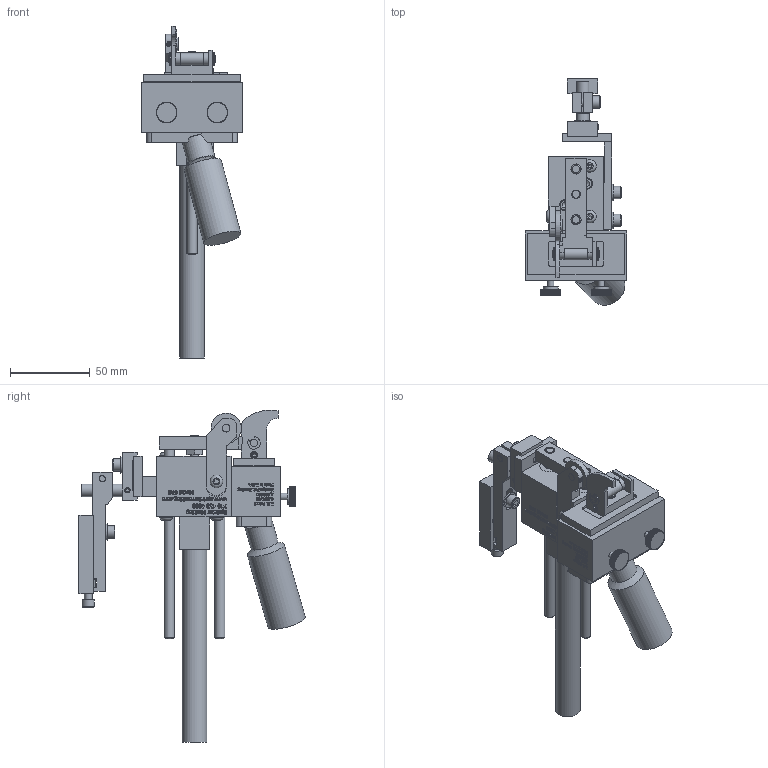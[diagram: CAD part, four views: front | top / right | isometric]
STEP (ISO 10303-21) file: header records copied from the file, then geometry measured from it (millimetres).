
FILE_DESCRIPTION((''),'2;1');
FILE_NAME('C:\Documents and Settings\Ron\My Documents\Inventor\Sprinter Drawing\Machines in Inventor\Model 616\Type\Ext Str\E1\Brkt\Ret\Model 616 ES1 ret w brkt mod 2012.stp','2012-03-16T15:05:32',('Ron'),(''),'Autodesk Inventor 2011','Autodesk Inventor 2011','');
FILE_SCHEMA(('AUTOMOTIVE_DESIGN { 1 0 10303 214 1 1 1 1 }'));
Length unit declared in the file: inch
Products named in the file (44): Model 616 ES1 ret w brkt mod 2012; 616 Frame Body; 66 Linear Bearing; Hexagon Socket Button Head Cap Screw - Inch 8 - 32 x 1/4; Hexagon Socket Head Cap Screw - Inch No. 8 - 32 UNC - 1 1/4; 616  Wheel Bractet Assy (prototype); 44 Wheel Retainer; 44 Cam Wheel; 88 Wheel Bracket Arm (prototype); Hexagon Socket Set Screw - Flat Point - Inch 4-48 UNF x 0.19; 8-32x0.25 Hexagon Socket Button Head Cap Screw ANSI/ASME B18.3; Model 616 STD Reservoir assy; 616 RESERVOIR; 66 INK BOTTLE; 616 Ink Pad; 10 Ink Resevior Lock Screw; Model 616 Mounting Bracket assy; rpb4; rpb3; rpb-1; rpb2; No. 10-24x0.88 Hexagon socket head cap screw ANSI/ASME B18.3; Type B - Plain Washer (Inch) No. 10 - narrow - Type B; 66 Machine Mounting Pivot Bracket; Pin - Hardened Ground Machine Dowel (Inch) 1/8 x 3/4; Pin - Hardened Ground Machine Dowel (Inch) 1/8 x 3/8; Model 616 Rod Carrier ES 1 Retracted Assy; 66 Rod Carrier; 44 & up Removable Marking Head Securing Post; Type A - Hexagon Socket Set Screw - Cup Point - Inch 8-32 UNC x 0.32; 66 PIVOT SHAFT; 66 PIVOT SHAFT LOCKING RING; 23 66 invert block; 616 Marking Head Plate; AS 1112 (4)  - Metric M6; 19 Rod Carrier Set Screws; 66 Spring; Hexagon Socket Flat Countersunk Head Cap Screw - Inch 6-32 UNC x 0.25; 616 baselock (sized); Model 66, E1 .25 x 5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
Assembly tree (58 placements, depth 3):
  Model 616 ES1 ret w brkt mod 2012
    616 Frame Body
    66 Linear Bearing
    Hexagon Socket Button Head Cap Screw - Inch 8 - 32 x 1/4  x4
    Hexagon Socket Head Cap Screw - Inch No. 8 - 32 UNC - 1 1/4  x2
    616  Wheel Bractet Assy (prototype)
      44 Wheel Retainer
      44 Cam Wheel
      88 Wheel Bracket Arm (prototype)
      Hexagon Socket Set Screw - Flat Point - Inch 4-48 UNF x 0.19
    8-32x0.25 Hexagon Socket Button Head Cap Screw ANSI/ASME B18.3
    Model 616 STD Reservoir assy
      616 RESERVOIR
      66 INK BOTTLE
      616 Ink Pad
    10 Ink Resevior Lock Screw  x2
    Model 616 Mounting Bracket assy
      rpb4
      rpb3
      rpb-1
      rpb2
      No. 10-24x0.88 Hexagon socket head cap screw ANSI/ASME B18.3  x5
      Type B - Plain Washer (Inch) No. 10 - narrow - Type B  x4
      66 Machine Mounting Pivot Bracket
      Pin - Hardened Ground Machine Dowel (Inch) 1/8 x 3/4
      Pin - Hardened Ground Machine Dowel (Inch) 1/8 x 3/8
    Model 616 Rod Carrier ES 1 Retracted Assy
      66 Rod Carrier
      44 & up Removable Marking Head Securing Post
      Type A - Hexagon Socket Set Screw - Cup Point - Inch 8-32 UNC x 0.32
      66 PIVOT SHAFT
      66 PIVOT SHAFT LOCKING RING  x2
      23 66 invert block
      616 Marking Head Plate
      AS 1112 (4)  - Metric M6
      19 Rod Carrier Set Screws  x2
      66 Spring
      Hexagon Socket Flat Countersunk Head Cap Screw - Inch 6-32 UNC x 0.25
      616 baselock (sized)
      Model 66, E1 .25 x 5  x2
      Hexagon Socket Set Screw - Flat Point - Inch 8-32 UNC x 0.32
      616 baselock STAMP
    E1 Retracted
    10-32 PORTS DECAL
Bounding box: 63.5 x 141.96 x 208.36 mm (x, y, z)
Volume: 237704.4 mm3; surface area: 112826.8 mm2
Topology: 428 solids, 428 shells, 6557 faces, 16096 edges, 9983 vertices
Faces by surface type: plane 4543, bspline 1343, cylinder 571, cone 77, torus 23
Full cylindrical faces by diameter (mm): 1.575 x1, 2.261 x1, 2.54 x2, 2.642 x1, 2.845 x1, 3.175 x4, 3.2 x1, 3.302 x14, 3.505 x1, 3.556 x1, 3.962 x12, 4.064 x2, 4.166 x11, 4.496 x1, 4.521 x1, 4.699 x3, 4.75 x4, 4.775 x2, 4.826 x8, 4.864 x2, 4.917 x1, 5.08 x1, 5.156 x7, 5.359 x1, 5.556 x1, 6.325 x2, 6.35 x7, 6.426 x1, 6.604 x1, 6.68 x1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
Entity records: 157228 total; most frequent: CARTESIAN_POINT 46614, ORIENTED_EDGE 24640, DIRECTION 17779, EDGE_CURVE 12320, VECTOR 8781, LINE 8781, VERTEX_POINT 7926, EDGE_LOOP 5522
